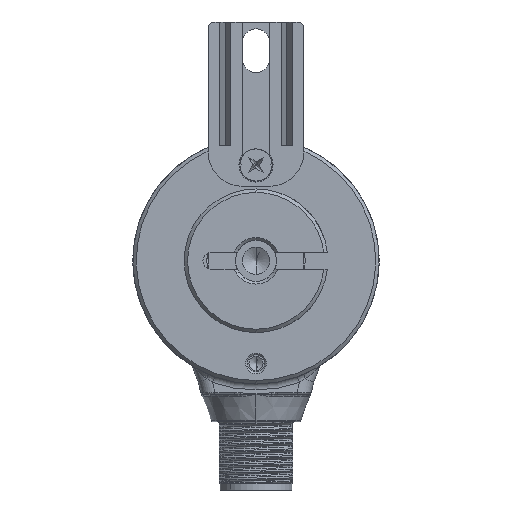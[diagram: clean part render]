
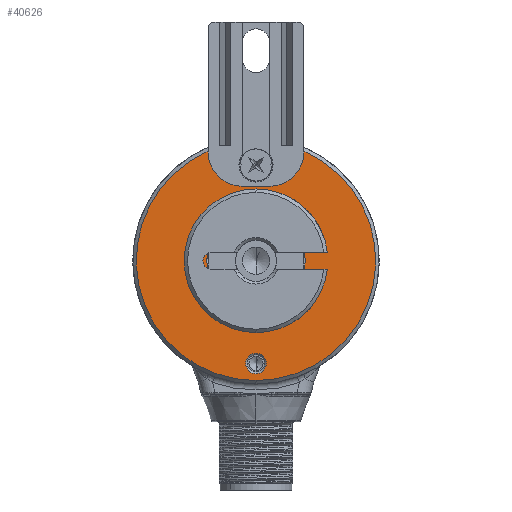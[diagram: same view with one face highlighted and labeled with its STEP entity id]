
A CAD part, left-side view. The second image highlights one B-rep face of the part: STEP entity #40626.
In plain terms, the highlighted planar face has unit normal (-1, 0, 0).
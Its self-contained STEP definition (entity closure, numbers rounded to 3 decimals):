
#28035 = CARTESIAN_POINT ( 'NONE',  ( 0., -7., 16.039 ) ) ;
#28036 = CARTESIAN_POINT ( 'NONE',  ( 0., 0., -17.5 ) ) ;
#28037 = DIRECTION ( 'NONE',  ( 0., 0., -1. ) ) ;
#28038 = DIRECTION ( 'NONE',  ( -1., 0., 0. ) ) ;
#28039 = CARTESIAN_POINT ( 'NONE',  ( 0., 0., 0. ) ) ;
#28040 = AXIS2_PLACEMENT_3D ( 'NONE', #28039, #28038, #28037 ) ;
#28045 = CIRCLE ( 'NONE', #28040, 17.5 ) ;
#28182 = CARTESIAN_POINT ( 'NONE',  ( 0., 0., -13.5 ) ) ;
#28183 = DIRECTION ( 'NONE',  ( 0., 0., 1. ) ) ;
#28184 = DIRECTION ( 'NONE',  ( -1., 0., 0. ) ) ;
#28185 = CARTESIAN_POINT ( 'NONE',  ( 0., 0., -15. ) ) ;
#28186 = AXIS2_PLACEMENT_3D ( 'NONE', #28185, #28184, #28183 ) ;
#28187 = CIRCLE ( 'NONE', #28186, 1.5 ) ;
#28188 = CARTESIAN_POINT ( 'NONE',  ( 0., 0., -16.5 ) ) ;
#30139 = CIRCLE ( 'NONE', #30194, 7.2 ) ;
#30190 = CARTESIAN_POINT ( 'NONE',  ( 0., 0., 7.2 ) ) ;
#30191 = DIRECTION ( 'NONE',  ( 0., 0., 1. ) ) ;
#30192 = DIRECTION ( 'NONE',  ( -1., 0., 0. ) ) ;
#30193 = CARTESIAN_POINT ( 'NONE',  ( 0., 0., 0. ) ) ;
#30194 = AXIS2_PLACEMENT_3D ( 'NONE', #30193, #30192, #30191 ) ;
#30359 = CARTESIAN_POINT ( 'NONE',  ( 0., 0., -7.2 ) ) ;
#30566 = CIRCLE ( 'NONE', #30622, 17.5 ) ;
#30567 = CARTESIAN_POINT ( 'NONE',  ( 0., 7., 16.039 ) ) ;
#30568 = DIRECTION ( 'NONE',  ( 0., 0., -1. ) ) ;
#30569 = VECTOR ( 'NONE', #30568, 1000. ) ;
#30570 = CARTESIAN_POINT ( 'NONE',  ( 0., 7., 16. ) ) ;
#30571 = LINE ( 'NONE', #30570, #30569 ) ;
#30572 = CARTESIAN_POINT ( 'NONE',  ( 0., 2., 11. ) ) ;
#30574 = CARTESIAN_POINT ( 'NONE',  ( 0., 7., 16. ) ) ;
#30575 = DIRECTION ( 'NONE',  ( 0., 0., 1. ) ) ;
#30576 = DIRECTION ( 'NONE',  ( -1., 0., 0. ) ) ;
#30577 = CARTESIAN_POINT ( 'NONE',  ( 0., 2., 16. ) ) ;
#30578 = AXIS2_PLACEMENT_3D ( 'NONE', #30577, #30576, #30575 ) ;
#30579 = CIRCLE ( 'NONE', #30578, 5. ) ;
#30603 = DIRECTION ( 'NONE',  ( 0., -1., 0. ) ) ;
#30604 = VECTOR ( 'NONE', #30603, 1000. ) ;
#30605 = CARTESIAN_POINT ( 'NONE',  ( 0., -2., 11. ) ) ;
#30606 = LINE ( 'NONE', #30605, #30604 ) ;
#30608 = CARTESIAN_POINT ( 'NONE',  ( 0., -2., 11. ) ) ;
#30609 = DIRECTION ( 'NONE',  ( 0., 0., 1. ) ) ;
#30610 = DIRECTION ( 'NONE',  ( -1., 0., 0. ) ) ;
#30611 = CARTESIAN_POINT ( 'NONE',  ( 0., -2., 16. ) ) ;
#30612 = AXIS2_PLACEMENT_3D ( 'NONE', #30611, #30610, #30609 ) ;
#30613 = CIRCLE ( 'NONE', #30612, 5. ) ;
#30614 = CARTESIAN_POINT ( 'NONE',  ( 0., -7., 16. ) ) ;
#30615 = DIRECTION ( 'NONE',  ( 0., 0., 1. ) ) ;
#30616 = VECTOR ( 'NONE', #30615, 1000. ) ;
#30617 = CARTESIAN_POINT ( 'NONE',  ( 0., -7., 21. ) ) ;
#30618 = LINE ( 'NONE', #30617, #30616 ) ;
#30619 = DIRECTION ( 'NONE',  ( 0., 0., -1. ) ) ;
#30620 = DIRECTION ( 'NONE',  ( -1., 0., 0. ) ) ;
#30621 = CARTESIAN_POINT ( 'NONE',  ( 0., 0., 0. ) ) ;
#30622 = AXIS2_PLACEMENT_3D ( 'NONE', #30621, #30620, #30619 ) ;
#30668 = FACE_BOUND ( 'NONE', #40609, .T. ) ;
#30669 = FACE_OUTER_BOUND ( 'NONE', #40550, .T. ) ;
#30670 = FACE_BOUND ( 'NONE', #40627, .T. ) ;
#30671 = DIRECTION ( 'NONE',  ( 0., 0., 1. ) ) ;
#30672 = DIRECTION ( 'NONE',  ( -1., 0., 0. ) ) ;
#30673 = CARTESIAN_POINT ( 'NONE',  ( 0., 0., 0. ) ) ;
#30674 = AXIS2_PLACEMENT_3D ( 'NONE', #30673, #30672, #30671 ) ;
#30675 = CIRCLE ( 'NONE', #30674, 7.2 ) ;
#30702 = DIRECTION ( 'NONE',  ( 0., 0., 1. ) ) ;
#30703 = DIRECTION ( 'NONE',  ( -1., 0., 0. ) ) ;
#30704 = AXIS2_PLACEMENT_3D ( 'NONE', #30711, #30703, #30702 ) ;
#30705 = CIRCLE ( 'NONE', #30704, 1.5 ) ;
#30707 = DIRECTION ( 'NONE',  ( 0., 0., -1. ) ) ;
#30708 = DIRECTION ( 'NONE',  ( 1., 0., 0. ) ) ;
#30709 = CARTESIAN_POINT ( 'NONE',  ( 0., 7.2, 0. ) ) ;
#30710 = AXIS2_PLACEMENT_3D ( 'NONE', #30709, #30708, #30707 ) ;
#30711 = CARTESIAN_POINT ( 'NONE',  ( 0., 0., -15. ) ) ;
#30712 = PLANE ( 'NONE',  #30710 ) ;
#39803 = EDGE_CURVE ( 'NONE', #39804, #39805, #28045, .T. ) ;
#39804 = VERTEX_POINT ( 'NONE', #28036 ) ;
#39805 = VERTEX_POINT ( 'NONE', #28035 ) ;
#39854 = VERTEX_POINT ( 'NONE', #28188 ) ;
#39856 = EDGE_CURVE ( 'NONE', #39854, #39857, #28187, .T. ) ;
#39857 = VERTEX_POINT ( 'NONE', #28182 ) ;
#40471 = EDGE_CURVE ( 'NONE', #40521, #40472, #30139, .T. ) ;
#40472 = VERTEX_POINT ( 'NONE', #30190 ) ;
#40521 = VERTEX_POINT ( 'NONE', #30359 ) ;
#40550 = EDGE_LOOP ( 'NONE', ( #40591, #40595, #40598, #40600, #40601, #40604, #40607 ) ) ;
#40591 = ORIENTED_EDGE ( 'NONE', *, *, #40592, .F. ) ;
#40592 = EDGE_CURVE ( 'NONE', #40593, #40594, #30579, .T. ) ;
#40593 = VERTEX_POINT ( 'NONE', #30574 ) ;
#40594 = VERTEX_POINT ( 'NONE', #30572 ) ;
#40595 = ORIENTED_EDGE ( 'NONE', *, *, #40596, .F. ) ;
#40596 = EDGE_CURVE ( 'NONE', #40597, #40593, #30571, .T. ) ;
#40597 = VERTEX_POINT ( 'NONE', #30567 ) ;
#40598 = ORIENTED_EDGE ( 'NONE', *, *, #40599, .T. ) ;
#40599 = EDGE_CURVE ( 'NONE', #40597, #39804, #30566, .T. ) ;
#40600 = ORIENTED_EDGE ( 'NONE', *, *, #39803, .T. ) ;
#40601 = ORIENTED_EDGE ( 'NONE', *, *, #40602, .F. ) ;
#40602 = EDGE_CURVE ( 'NONE', #40603, #39805, #30618, .T. ) ;
#40603 = VERTEX_POINT ( 'NONE', #30614 ) ;
#40604 = ORIENTED_EDGE ( 'NONE', *, *, #40605, .F. ) ;
#40605 = EDGE_CURVE ( 'NONE', #40606, #40603, #30613, .T. ) ;
#40606 = VERTEX_POINT ( 'NONE', #30608 ) ;
#40607 = ORIENTED_EDGE ( 'NONE', *, *, #40608, .F. ) ;
#40608 = EDGE_CURVE ( 'NONE', #40594, #40606, #30606, .T. ) ;
#40609 = EDGE_LOOP ( 'NONE', ( #40610, #40611 ) ) ;
#40610 = ORIENTED_EDGE ( 'NONE', *, *, #40625, .F. ) ;
#40611 = ORIENTED_EDGE ( 'NONE', *, *, #40471, .F. ) ;
#40625 = EDGE_CURVE ( 'NONE', #40472, #40521, #30675, .T. ) ;
#40626 = ADVANCED_FACE ( 'NONE', ( #30670, #30669, #30668 ), #30712, .F. ) ;
#40627 = EDGE_LOOP ( 'NONE', ( #40628, #40630 ) ) ;
#40628 = ORIENTED_EDGE ( 'NONE', *, *, #40629, .F. ) ;
#40629 = EDGE_CURVE ( 'NONE', #39857, #39854, #30705, .T. ) ;
#40630 = ORIENTED_EDGE ( 'NONE', *, *, #39856, .F. ) ;
